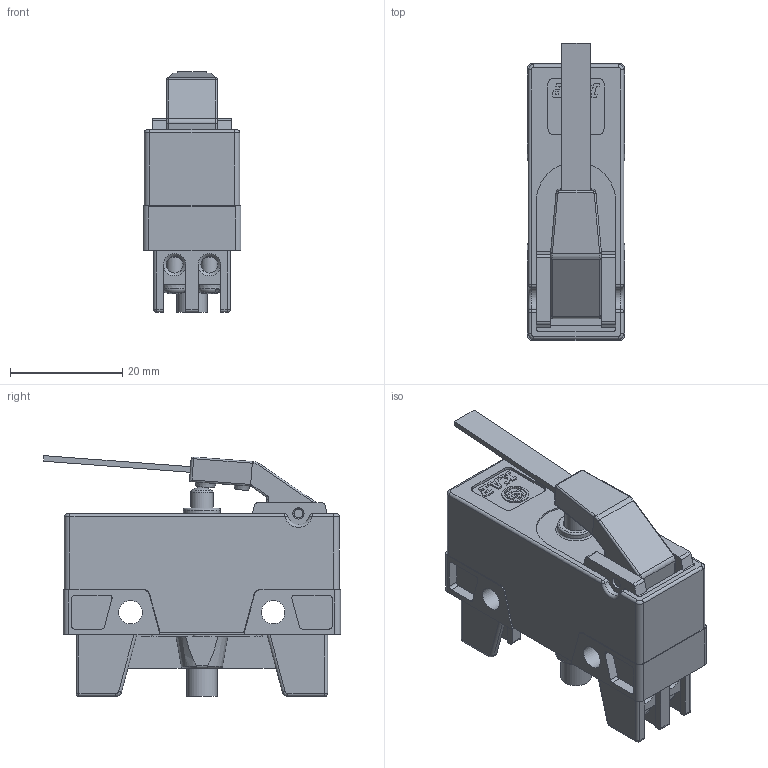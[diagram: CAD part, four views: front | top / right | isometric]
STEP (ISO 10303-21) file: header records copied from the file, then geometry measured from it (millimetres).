
FILE_DESCRIPTION(('Microrutor Basico Ruptura Positiva Contato 2NF Atuador Alavanca Curta Rigida Plana Terminal Parafuso'),'2;1');
FILE_NAME('E:\WorkFolder\Bibl\3DWeb\kp_mk_mk2h_step.stp','2014-02-03T16:48:26',('DIE'),('KAP Componentes Eletricos Ltda.'),'Autodesk Inventor 2011','Autodesk Inventor 2011','Direitos reservados. Proibido reproducao, cedencia ou revelacao de conteudo a terceiros, salvo com autorizacao.');
FILE_SCHEMA(('AUTOMOTIVE_DESIGN { 1 0 10303 214 1 1 1 1 }'));
Length unit declared in the file: millimetre
Products named in the file (4): MK2H_3D; MK2_Base; MK2_TampaG; MK2_AlavancaH
Assembly tree (3 placements, depth 2):
  MK2H_3D
    MK2_Base
    MK2_TampaG
    MK2_AlavancaH
Bounding box: 17.4 x 52.93 x 42.89 mm (x, y, z)
Volume: 19934.2 mm3; surface area: 12674 mm2
Topology: 3 solids, 15 shells, 2762 faces, 7082 edges, 4029 vertices
Faces by surface type: bspline 1771, plane 679, cylinder 206, cone 51, torus 36, sphere 19
Full cylindrical faces by diameter (mm): 1.6 x5, 1.65 x2, 2 x2, 2.4 x1, 2.729 x4, 3 x4, 3.2 x1, 4 x1, 4.1 x1, 4.2 x2, 4.5 x4, 4.6 x1, 4.8 x1, 5.4 x2, 6.6 x1
Entity records: 107739 total; most frequent: CARTESIAN_POINT 54432, ORIENTED_EDGE 13922, EDGE_CURVE 6961, DIRECTION 5478, B_SPLINE_CURVE_WITH_KNOTS 4144, VERTEX_POINT 3997, EDGE_LOOP 3266, FACE_OUTER_BOUND 2762
